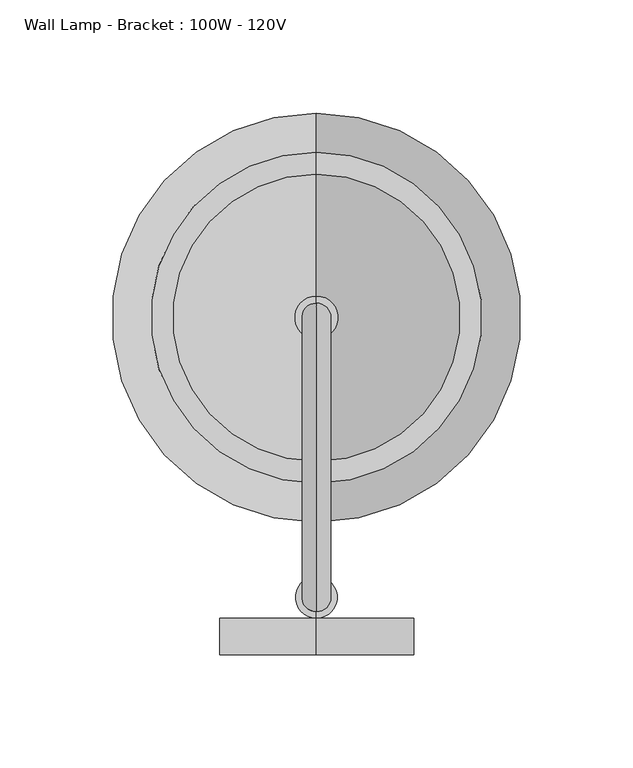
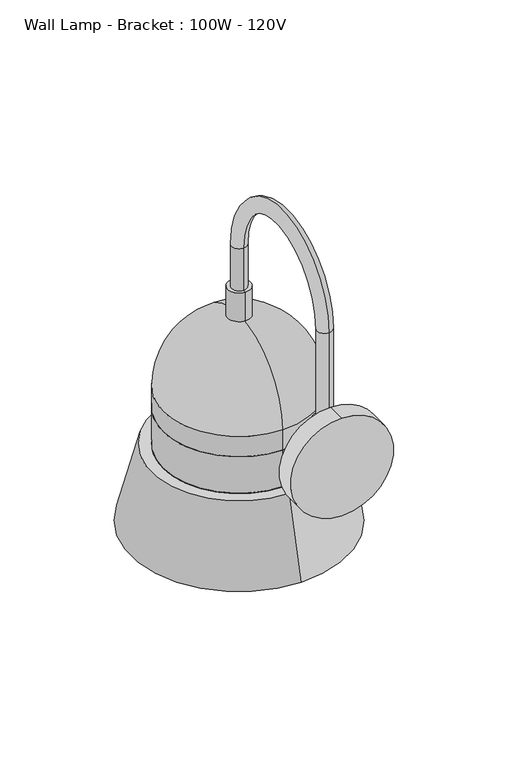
"""IFC4 building model written with IfcOpenShell, lengths in millimetres: light fixture geometry, Wall Lamp - Bracket : 100W - 120V."""

from ifc_helpers import new_model, si_unit, point, frame, frame_2d, origin, place, context, project, spatial, polyline, circle_curve, ellipse_curve, trimmed, segment, composite_curve, outline, extrude, source, transform, mapped, element, save
from ifc_brep_helpers import plane_surface, cylinder_surface, revolved_surface, advanced_brep


def wall_lamp_bracket_100w_120v_896e4c63(model_context):
    return source(origin(), model_context, "Body", "SolidModel", [
        advanced_brep(
        [(-36.3556627, 134.9770413, 2413.7644247), (-36.3556627, 147.6770413, 2413.7644247), (-36.3556627, 147.6770413, 2334.6251468), (-36.3556627, 134.9770413, 2334.6251468), (-36.3556627, 271.4625, 2413.7644247), (-36.3556627, 258.7625, 2413.7644247), (-36.3556627, 271.4625, 2376.6250104), (-36.3556627, 258.7625, 2376.6250104), (-36.3556627, 132.1268793, 2334.6251468), (-36.3556627, 150.5272034, 2334.6251468), (-36.3556627, 150.5272034, 2307.1079598), (-36.3556627, 132.1268793, 2307.1079598), (-36.3556627, 141.3270413, 2297.9077977)],
        [
            (0, 1, circle_curve(frame((-36.3556627, 141.3270413, 2413.7644247), z_axis=(0.0, 0.0, -1.0), x_axis=(0.0, 1.0, 0.0)), 6.35)),
            (1, 2),
            (2, 3, circle_curve(frame((-36.3556627, 141.3270413, 2334.6251468), z_axis=(0.0, 0.0, 1.0), x_axis=(0.0, 1.0, 0.0)), 6.35)),
            (3, 0),
            (1, 0, circle_curve(frame((-36.3556627, 141.3270413, 2413.7644247), z_axis=(0.0, 0.0, -1.0), x_axis=(0.0, 1.0, 0.0)), 6.35)),
            (3, 2, circle_curve(frame((-36.3556627, 141.3270413, 2334.6251468), z_axis=(0.0, 0.0, 1.0), x_axis=(0.0, 1.0, 0.0)), 6.35)),
            (0, 4, circle_curve(frame((-36.3556627, 203.2197707, 2413.7644247), z_axis=(-1.0, 0.0, 0.0), x_axis=(0.0, -1.0, 0.0)), 68.2427293)),
            (4, 5, circle_curve(frame((-36.3556627, 265.1125, 2413.7644247), z_axis=(0.0, 0.0, 1.0), x_axis=(0.0, -1.0, 0.0)), 6.35)),
            (5, 1, circle_curve(frame((-36.3556627, 203.2197707, 2413.7644247), z_axis=(1.0, 0.0, 0.0), x_axis=(0.0, -1.0, 0.0)), 55.5427293)),
            (5, 4, circle_curve(frame((-36.3556627, 265.1125, 2413.7644247), z_axis=(0.0, 0.0, 1.0), x_axis=(0.0, -1.0, 0.0)), 6.35)),
            (6, 7, circle_curve(frame((-36.3556627, 265.1125, 2376.6250104), z_axis=(0.0, 0.0, -1.0), x_axis=(0.0, -1.0, 0.0)), 6.35)),
            (7, 6, circle_curve(frame((-36.3556627, 265.1125, 2376.6250104), z_axis=(0.0, 0.0, -1.0), x_axis=(0.0, -1.0, 0.0)), 6.35)),
            (4, 6),
            (7, 5),
            (8, 9, circle_curve(frame((-36.3556627, 141.3270413, 2334.6251468), z_axis=(0.0, 0.0, 1.0), x_axis=(0.0, -1.0, 0.0)), 9.2001621)),
            (9, 2),
            (3, 8),
            (9, 8, circle_curve(frame((-36.3556627, 141.3270413, 2334.6251468), z_axis=(0.0, 0.0, 1.0), x_axis=(0.0, -1.0, 0.0)), 9.2001621)),
            (10, 11, circle_curve(frame((-36.3556627, 141.3270413, 2307.1079598), z_axis=(0.0, 0.0, -1.0), x_axis=(0.0, -1.0, 0.0)), 9.2001621)),
            (11, 12, circle_curve(frame((-36.3556627, 141.3270413, 2307.1079598), z_axis=(1.0, 0.0, 0.0), x_axis=(0.0, -1.0, 0.0)), 9.2001621)),
            (12, 10, circle_curve(frame((-36.3556627, 141.3270413, 2307.1079598), z_axis=(1.0, 0.0, 0.0), x_axis=(0.0, 1.0, 0.0)), 9.2001621)),
            (11, 10, circle_curve(frame((-36.3556627, 141.3270413, 2307.1079598), z_axis=(0.0, 0.0, -1.0), x_axis=(0.0, -1.0, 0.0)), 9.2001621)),
            (8, 11),
            (10, 9),
        ],
        [
            cylinder_surface(frame((-36.3556627, 141.3270413, 2317.75), z_axis=(0.0, 0.0, -1.0), x_axis=(0.0, 1.0, 0.0)), 6.35),
            revolved_surface(trimmed(ellipse_curve(frame((-36.3556627, 141.3270413, 2413.7644247), z_axis=(0.0, 0.0, -1.0), x_axis=(0.0, 1.0, 0.0)), 6.35, 6.35), [point((-36.3556627, 134.9770413, 2413.7644247))], [point((-36.3556627, 147.6770413, 2413.7644247))], True, "CARTESIAN"), (-36.3556627, 203.2197707, 2413.7644247), (-1.0, 0.0, 0.0)),
            revolved_surface(trimmed(ellipse_curve(frame((-36.3556627, 141.3270413, 2413.7644247), z_axis=(0.0, 0.0, -1.0), x_axis=(0.0, 1.0, 0.0)), 6.35, 6.35), [point((-36.3556627, 147.6770413, 2413.7644247))], [point((-36.3556627, 134.9770413, 2413.7644247))], True, "CARTESIAN"), (-36.3556627, 203.2197707, 2413.7644247), (-1.0, 0.0, 0.0)),
            plane_surface(frame((-36.3556627, 258.7625, 2376.6250104), z_axis=(0.0, 0.0, -1.0), x_axis=(-1.0, 0.0, 0.0))),
            cylinder_surface(frame((-36.3556627, 265.1125, 2413.7644247), z_axis=(0.0, 0.0, 1.0), x_axis=(0.0, -1.0, 0.0)), 6.35),
            plane_surface(frame((-36.3556627, 141.3270413, 2334.6251468), z_axis=(0.0, 0.0, 1.0), x_axis=(0.0, -1.0, 0.0))),
            revolved_surface(trimmed(ellipse_curve(frame((-36.3556627, 141.3270413, 2307.1079598), z_axis=(-1.0, 0.0, 0.0), x_axis=(0.0, -1.0, 0.0)), 9.2001621, 9.2001621), [point((-36.3556627, 141.3270413, 2297.9077977))], [point((-36.3556627, 132.1268793, 2307.1079598))], True, "CARTESIAN"), (-36.3556627, 141.3270413, 2472.7469008), (0.0, 0.0, 1.0)),
            cylinder_surface(frame((-36.3556627, 141.3270413, 2472.7469008), z_axis=(0.0, 0.0, 1.0), x_axis=(0.0, -1.0, 0.0)), 9.2001621),
        ],
        [
            (0, [[1, 2, 3, 4]]),
            (0, [[5, -4, 6, -2]]),
            (1, [[-1, 7, 8, 9]]),
            (2, [[-5, -9, 10, -7]]),
            (3, [[11, 12]]),
            (4, [[-8, 13, -12, 14]]),
            (4, [[-10, -14, -11, -13]]),
            (5, [[15, 16, -6, 17]]),
            (5, [[18, -17, -3, -16]]),
            (6, [[19, 20, 21]]),
            (6, [[-20, 22, -21]]),
            (7, [[-15, 23, -19, 24]]),
            (7, [[-18, -24, -22, -23]]),
        ],
    ),
        extrude(outline(composite_curve([segment(trimmed(circle_curve(frame_2d((2307.1079598, -36.3556627)), 43.0116676), [point((2264.0962922, -36.3556627))], [point((2350.1196273, -36.3556627))], False, "CARTESIAN"), True, "CONTINUOUS"), segment(trimmed(circle_curve(frame_2d((2307.1079598, -36.3556627)), 43.0116676), [point((2350.1196273, -36.3556627))], [point((2264.0962922, -36.3556627))], False, "CARTESIAN"), True, "CONTINUOUS")], self_intersect=False)), frame((0.0, 115.8875, 0.0), z_axis=(0.0, 1.0, 0.0), x_axis=(0.0, 0.0, 1.0)), (0.0, 0.0, 1.0), 16.2393793),
        advanced_brep(
        [(-36.3556627, 328.6125, 2237.5701357), (-36.3556627, 201.6125, 2237.5701357), (-36.3556627, 201.6125, 2197.1), (-36.3556627, 328.6125, 2197.1), (-36.3556627, 265.1125, 2237.5701357), (-36.3556627, 265.1125, 2133.6)],
        [
            (0, 1, circle_curve(frame((-36.3556627, 265.1125, 2237.5701357), z_axis=(0.0, 0.0, -1.0), x_axis=(0.0, -1.0, 0.0)), 63.5)),
            (1, 2),
            (2, 3, circle_curve(frame((-36.3556627, 265.1125, 2197.1), z_axis=(0.0, 0.0, 1.0), x_axis=(0.0, -1.0, 0.0)), 63.5)),
            (3, 0),
            (1, 0, circle_curve(frame((-36.3556627, 265.1125, 2237.5701357), z_axis=(0.0, 0.0, -1.0), x_axis=(0.0, -1.0, 0.0)), 63.5)),
            (3, 2, circle_curve(frame((-36.3556627, 265.1125, 2197.1), z_axis=(0.0, 0.0, 1.0), x_axis=(0.0, -1.0, 0.0)), 63.5)),
            (4, 1),
            (0, 4),
            (2, 5, circle_curve(frame((-36.3556627, 265.1125, 2197.1), z_axis=(1.0, 0.0, 0.0), x_axis=(0.0, -1.0, 0.0)), 63.5)),
            (5, 3, circle_curve(frame((-36.3556627, 265.1125, 2197.1), z_axis=(1.0, 0.0, 0.0), x_axis=(0.0, 1.0, 0.0)), 63.5)),
        ],
        [
            cylinder_surface(frame((-36.3556627, 265.1125, -914.4), z_axis=(0.0, 0.0, 1.0), x_axis=(0.0, -1.0, 0.0)), 63.5),
            plane_surface(frame((-36.3556627, 265.1125, 2237.5701357), z_axis=(0.0, 0.0, 1.0), x_axis=(0.0, -1.0, 0.0))),
            revolved_surface(trimmed(ellipse_curve(frame((-36.3556627, 265.1125, 2197.1), z_axis=(-1.0, 0.0, 0.0), x_axis=(0.0, -1.0, 0.0)), 63.5, 63.5), [point((-36.3556627, 265.1125, 2133.6))], [point((-36.3556627, 201.6125, 2197.1))], True, "CARTESIAN"), (-36.3556627, 265.1125, -914.4), (0.0, 0.0, 1.0)),
        ],
        [
            (0, [[1, 2, 3, 4]]),
            (0, [[5, -4, 6, -2]]),
            (1, [[7, -1, 8]]),
            (1, [[-8, -5, -7]]),
            (2, [[-3, 9, 10]]),
            (2, [[-6, -10, -9]]),
        ],
    ),
        advanced_brep(
        [(-36.3556627, 328.6125, 2269.8272766), (-36.3556627, 201.6125, 2269.8272766), (-36.3556627, 201.6125, 2237.5701357), (-36.3556627, 328.6125, 2237.5701357), (-36.3556627, 325.4375, 2269.8272766), (-36.3556627, 204.7875, 2269.8272766), (-36.3556627, 325.4375, 2234.3951357), (-36.3556627, 204.7875, 2234.3951357), (-36.3556627, 336.8669546, 2234.3951357), (-36.3556627, 193.3580454, 2234.3951357), (-36.3556627, 351.460128, 2169.5241129), (-36.3556627, 178.764872, 2169.5241129), (-36.3556627, 355.6, 2169.5241129), (-36.3556627, 174.625, 2169.5241129), (-36.3556627, 338.3501529, 2237.5701357), (-36.3556627, 191.8748471, 2237.5701357)],
        [
            (0, 1, circle_curve(frame((-36.3556627, 265.1125, 2269.8272766), z_axis=(0.0, 0.0, -1.0), x_axis=(0.0, -1.0, 0.0)), 63.5)),
            (1, 2),
            (2, 3, circle_curve(frame((-36.3556627, 265.1125, 2237.5701357), z_axis=(0.0, 0.0, 1.0), x_axis=(0.0, -1.0, 0.0)), 63.5)),
            (3, 0),
            (1, 0, circle_curve(frame((-36.3556627, 265.1125, 2269.8272766), z_axis=(0.0, 0.0, -1.0), x_axis=(0.0, -1.0, 0.0)), 63.5)),
            (3, 2, circle_curve(frame((-36.3556627, 265.1125, 2237.5701357), z_axis=(0.0, 0.0, 1.0), x_axis=(0.0, -1.0, 0.0)), 63.5)),
            (4, 5, circle_curve(frame((-36.3556627, 265.1125, 2269.8272766), z_axis=(0.0, 0.0, -1.0), x_axis=(0.0, -1.0, 0.0)), 60.325)),
            (5, 1),
            (0, 4),
            (5, 4, circle_curve(frame((-36.3556627, 265.1125, 2269.8272766), z_axis=(0.0, 0.0, -1.0), x_axis=(0.0, -1.0, 0.0)), 60.325)),
            (6, 7, circle_curve(frame((-36.3556627, 265.1125, 2234.3951357), z_axis=(0.0, 0.0, -1.0), x_axis=(0.0, -1.0, 0.0)), 60.325)),
            (7, 5),
            (4, 6),
            (7, 6, circle_curve(frame((-36.3556627, 265.1125, 2234.3951357), z_axis=(0.0, 0.0, -1.0), x_axis=(0.0, -1.0, 0.0)), 60.325)),
            (8, 9, circle_curve(frame((-36.3556627, 265.1125, 2234.3951357), z_axis=(0.0, 0.0, -1.0), x_axis=(0.0, -1.0, 0.0)), 71.7544546)),
            (9, 7),
            (6, 8),
            (9, 8, circle_curve(frame((-36.3556627, 265.1125, 2234.3951357), z_axis=(0.0, 0.0, -1.0), x_axis=(0.0, -1.0, 0.0)), 71.7544546)),
            (10, 11, circle_curve(frame((-36.3556627, 265.1125, 2169.5241129), z_axis=(0.0, 0.0, -1.0), x_axis=(0.0, -1.0, 0.0)), 86.347628)),
            (11, 9),
            (8, 10),
            (11, 10, circle_curve(frame((-36.3556627, 265.1125, 2169.5241129), z_axis=(0.0, 0.0, -1.0), x_axis=(0.0, -1.0, 0.0)), 86.347628)),
            (12, 13, circle_curve(frame((-36.3556627, 265.1125, 2169.5241129), z_axis=(0.0, 0.0, -1.0), x_axis=(0.0, -1.0, 0.0)), 90.4875)),
            (13, 11),
            (10, 12),
            (13, 12, circle_curve(frame((-36.3556627, 265.1125, 2169.5241129), z_axis=(0.0, 0.0, -1.0), x_axis=(0.0, -1.0, 0.0)), 90.4875)),
            (14, 15, circle_curve(frame((-36.3556627, 265.1125, 2237.5701357), z_axis=(0.0, 0.0, -1.0), x_axis=(0.0, -1.0, 0.0)), 73.2376529)),
            (15, 13),
            (12, 14),
            (15, 14, circle_curve(frame((-36.3556627, 265.1125, 2237.5701357), z_axis=(0.0, 0.0, -1.0), x_axis=(0.0, -1.0, 0.0)), 73.2376529)),
            (2, 15),
            (14, 3),
        ],
        [
            cylinder_surface(frame((-36.3556627, 265.1125, -914.4), z_axis=(0.0, 0.0, 1.0), x_axis=(0.0, -1.0, 0.0)), 63.5),
            plane_surface(frame((-36.3556627, 265.1125, 2269.8272766), z_axis=(0.0, 0.0, 1.0), x_axis=(0.0, -1.0, 0.0))),
            revolved_surface(polyline([(-36.3556627, 204.78750000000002, 2269.8272766), (-36.3556627, 204.78750000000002, 2234.3951357)]), (-36.3556627, 265.1125, -914.4), (0.0, 0.0, 1.0)),
            plane_surface(frame((-36.3556627, 265.1125, 2234.3951357), z_axis=(0.0, 0.0, -1.0), x_axis=(0.0, -1.0, 0.0))),
            revolved_surface(polyline([(-36.3556627, 193.3580454, 2234.3951357), (-36.3556627, 178.764872, 2169.5241129)]), (-36.3556627, 265.1125, -914.4), (0.0, 0.0, 1.0)),
            plane_surface(frame((-36.3556627, 265.1125, 2169.5241129), z_axis=(0.0, 0.0, -1.0), x_axis=(0.0, -1.0, 0.0))),
            revolved_surface(polyline([(-36.3556627, 174.625, 2169.5241129), (-36.3556627, 191.8748471, 2237.5701357)]), (-36.3556627, 265.1125, -914.4), (0.0, 0.0, 1.0)),
            plane_surface(frame((-36.3556627, 265.1125, 2237.5701357), z_axis=(0.0, 0.0, 1.0), x_axis=(0.0, -1.0, 0.0))),
        ],
        [
            (0, [[1, 2, 3, 4]]),
            (0, [[5, -4, 6, -2]]),
            (1, [[7, 8, -1, 9]]),
            (1, [[10, -9, -5, -8]]),
            (2, [[11, 12, -7, 13]]),
            (2, [[14, -13, -10, -12]]),
            (3, [[15, 16, -11, 17]]),
            (3, [[18, -17, -14, -16]]),
            (4, [[19, 20, -15, 21]]),
            (4, [[22, -21, -18, -20]]),
            (5, [[23, 24, -19, 25]]),
            (5, [[26, -25, -22, -24]]),
            (6, [[27, 28, -23, 29]]),
            (6, [[30, -29, -26, -28]]),
            (7, [[-3, 31, -27, 32]]),
            (7, [[-6, -32, -30, -31]]),
        ],
    ),
        advanced_brep(
        [(-36.3556627, 328.6125, 2287.7818991), (-36.3556627, 201.6125, 2287.7818991), (-36.3556627, 201.6125, 2269.8272766), (-36.3556627, 328.6125, 2269.8272766), (-36.3556627, 265.1125, 2351.2818991), (-36.3556627, 265.1125, 2269.8272766)],
        [
            (0, 1, circle_curve(frame((-36.3556627, 265.1125, 2287.7818991), z_axis=(0.0, 0.0, -1.0), x_axis=(0.0, -1.0, 0.0)), 63.5)),
            (1, 2),
            (2, 3, circle_curve(frame((-36.3556627, 265.1125, 2269.8272766), z_axis=(0.0, 0.0, 1.0), x_axis=(0.0, -1.0, 0.0)), 63.5)),
            (3, 0),
            (1, 0, circle_curve(frame((-36.3556627, 265.1125, 2287.7818991), z_axis=(0.0, 0.0, -1.0), x_axis=(0.0, -1.0, 0.0)), 63.5)),
            (3, 2, circle_curve(frame((-36.3556627, 265.1125, 2269.8272766), z_axis=(0.0, 0.0, 1.0), x_axis=(0.0, -1.0, 0.0)), 63.5)),
            (4, 1, circle_curve(frame((-36.3556627, 265.1125, 2287.7818991), z_axis=(1.0, 0.0, 0.0), x_axis=(0.0, -1.0, 0.0)), 63.5)),
            (0, 4, circle_curve(frame((-36.3556627, 265.1125, 2287.7818991), z_axis=(1.0, 0.0, 0.0), x_axis=(0.0, 1.0, 0.0)), 63.5)),
            (2, 5),
            (5, 3),
        ],
        [
            cylinder_surface(frame((-36.3556627, 265.1125, -914.4), z_axis=(0.0, 0.0, 1.0), x_axis=(0.0, -1.0, 0.0)), 63.5),
            revolved_surface(trimmed(ellipse_curve(frame((-36.3556627, 265.1125, 2287.7818991), z_axis=(-1.0, 0.0, 0.0), x_axis=(0.0, -1.0, 0.0)), 63.5, 63.5), [point((-36.3556627, 201.6125, 2287.7818991))], [point((-36.3556627, 265.1125, 2351.2818991))], True, "CARTESIAN"), (-36.3556627, 265.1125, -914.4), (0.0, 0.0, 1.0)),
            plane_surface(frame((-36.3556627, 265.1125, 2269.8272766), z_axis=(0.0, 0.0, -1.0), x_axis=(0.0, -1.0, 0.0))),
        ],
        [
            (0, [[1, 2, 3, 4]]),
            (0, [[5, -4, 6, -2]]),
            (1, [[7, -1, 8]]),
            (1, [[-8, -5, -7]]),
            (2, [[-3, 9, 10]]),
            (2, [[-6, -10, -9]]),
        ],
    ),
        advanced_brep(
        [(-36.3556627, 274.6375, 2351.5511541), (-36.3556627, 255.5875, 2351.5511541), (-36.3556627, 265.1125, 2351.5511541), (-36.3556627, 274.6375, 2376.6250104), (-36.3556627, 255.5875, 2376.6250104), (-36.3556627, 265.1125, 2376.6250104)],
        [
            (0, 1, circle_curve(frame((-36.3556627, 265.1125, 2351.5511541), z_axis=(0.0, 0.0, -1.0), x_axis=(0.0, -1.0, 0.0)), 9.525)),
            (1, 2),
            (2, 0),
            (1, 0, circle_curve(frame((-36.3556627, 265.1125, 2351.5511541), z_axis=(0.0, 0.0, -1.0), x_axis=(0.0, -1.0, 0.0)), 9.525)),
            (3, 4, circle_curve(frame((-36.3556627, 265.1125, 2376.6250104), z_axis=(0.0, 0.0, -1.0), x_axis=(0.0, -1.0, 0.0)), 9.525)),
            (4, 1),
            (0, 3),
            (4, 3, circle_curve(frame((-36.3556627, 265.1125, 2376.6250104), z_axis=(0.0, 0.0, -1.0), x_axis=(0.0, -1.0, 0.0)), 9.525)),
            (5, 4),
            (3, 5),
        ],
        [
            plane_surface(frame((-36.3556627, 265.1125, 2351.5511541), z_axis=(0.0, 0.0, -1.0), x_axis=(0.0, -1.0, 0.0))),
            cylinder_surface(frame((-36.3556627, 265.1125, -914.4), z_axis=(0.0, 0.0, 1.0), x_axis=(0.0, -1.0, 0.0)), 9.525),
            plane_surface(frame((-36.3556627, 265.1125, 2376.6250104), z_axis=(0.0, 0.0, 1.0), x_axis=(0.0, -1.0, 0.0))),
        ],
        [
            (0, [[1, 2, 3]]),
            (0, [[4, -3, -2]]),
            (1, [[5, 6, -1, 7]]),
            (1, [[8, -7, -4, -6]]),
            (2, [[9, -5, 10]]),
            (2, [[-10, -8, -9]]),
        ],
    ),
    ])


if __name__ == "__main__":
    model = new_model("IFC4")
    model_context = context("Model", 3, world=origin())
    ifc_project = project(units=[si_unit("LENGTHUNIT", "METRE", prefix="MILLI")], contexts=[model_context])
    site = spatial("IfcSite", under=ifc_project)
    building = spatial("IfcBuilding", under=site)
    placement = place(None, origin())
    wall_lamp_bracket_100w_120v_shape = wall_lamp_bracket_100w_120v_896e4c63(model_context)
    element("IfcLightFixture", 1, ObjectType="Wall Lamp - Bracket : 100W - 120V", at=placement, inside=building, context=model_context, shape_type="MappedRepresentation", body=[
        mapped(wall_lamp_bracket_100w_120v_shape, transform((0.0, 0.0, 0.0), x_axis=(1.0, 0.0, 0.0), y_axis=(0.0, 1.0, 0.0), z_axis=(0.0, 0.0, 1.0))),
    ])
    save(model, "model.ifc")
